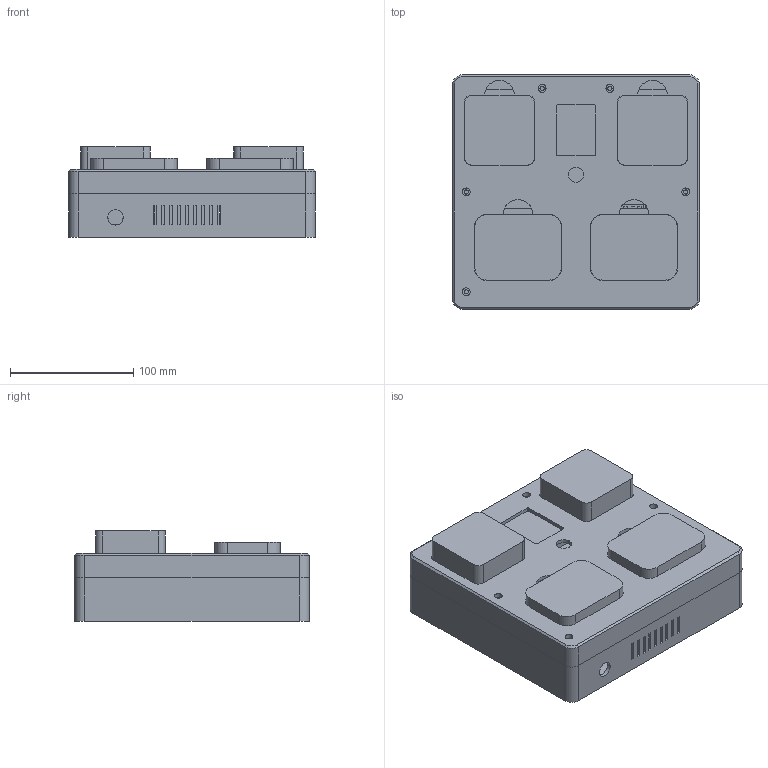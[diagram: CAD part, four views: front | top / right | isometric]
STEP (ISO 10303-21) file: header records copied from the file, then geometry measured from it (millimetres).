
FILE_DESCRIPTION(('Open CASCADE Model'),'2;1');
FILE_NAME('Open CASCADE Shape Model','2026-11-16T01:16:53',('Author'),( 'Open CASCADE'),'Open CASCADE STEP processor 7.7','Open CASCADE 7.7' ,'Unknown');
FILE_SCHEMA(('AUTOMOTIVE_DESIGN { 1 0 10303 214 1 1 1 1 }'));
Length unit declared in the file: millimetre
Products named in the file (35): AVO_DOCK_V1; AVO_DOCK_V1_fondo; AVO_DOCK_V1_fondo_part; AVO_DOCK_V1_frente; AVO_DOCK_V1_frente_part; ref_pcb; ref_pcb_part; ref_componentes_pcb; ref_componentes_pcb_part; ref_capsula_casco_A; ref_capsula_casco_A_part; ref_pogo_casco_A; ref_pogo_casco_A_part; ref_imanes_casco_A; ref_imanes_casco_A_part; ref_capsula_casco_B; ref_capsula_casco_B_part; ref_pogo_casco_B; ref_pogo_casco_B_part; ref_imanes_casco_B; ref_imanes_casco_B_part; ref_capsula_cincha_A; ref_capsula_cincha_A_part; ref_pogo_cincha_A; ref_pogo_cincha_A_part; ref_imanes_cincha_A; ref_imanes_cincha_A_part; ref_capsula_cincha_B; ref_capsula_cincha_B_part; ref_pogo_cincha_B; ref_pogo_cincha_B_part; ref_imanes_cincha_B; ref_imanes_cincha_B_part; ref_pantalla; ref_pantalla_part
Assembly tree (34 placements, depth 3):
  AVO_DOCK_V1
    AVO_DOCK_V1_fondo
      AVO_DOCK_V1_fondo_part
    AVO_DOCK_V1_frente
      AVO_DOCK_V1_frente_part
    ref_pcb
      ref_pcb_part
    ref_componentes_pcb
      ref_componentes_pcb_part
    ref_capsula_casco_A
      ref_capsula_casco_A_part
    ref_pogo_casco_A
      ref_pogo_casco_A_part
    ref_imanes_casco_A
      ref_imanes_casco_A_part
    ref_capsula_casco_B
      ref_capsula_casco_B_part
    ref_pogo_casco_B
      ref_pogo_casco_B_part
    ref_imanes_casco_B
      ref_imanes_casco_B_part
    ref_capsula_cincha_A
      ref_capsula_cincha_A_part
    ref_pogo_cincha_A
      ref_pogo_cincha_A_part
    ref_imanes_cincha_A
      ref_imanes_cincha_A_part
    ref_capsula_cincha_B
      ref_capsula_cincha_B_part
    ref_pogo_cincha_B
      ref_pogo_cincha_B_part
    ref_imanes_cincha_B
      ref_imanes_cincha_B_part
    ref_pantalla
      ref_pantalla_part
Bounding box: 200 x 190 x 73.12 mm (x, y, z)
Volume: 770262.1 mm3; surface area: 346088.7 mm2
Topology: 108 solids, 108 shells, 1173 faces, 2641 edges, 1758 vertices
Faces by surface type: plane 902, cylinder 267, cone 4
Full cylindrical faces by diameter (mm): 1.6 x4, 3.4 x5, 4.2 x11, 5 x8, 5.15 x8, 6 x8, 6.15 x8, 6.4 x5, 7 x6, 8.5 x10, 12.2 x1, 12.5 x1
Entity records: 67882 total; most frequent: CARTESIAN_POINT 12497, DIRECTION 10013, LINE 6059, VECTOR 6059, ORIENTED_EDGE 5282, PCURVE 5282, DEFINITIONAL_REPRESENTATION 5282, EDGE_CURVE 2641
